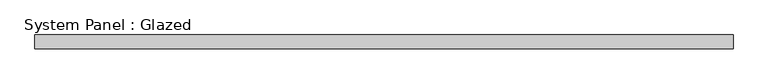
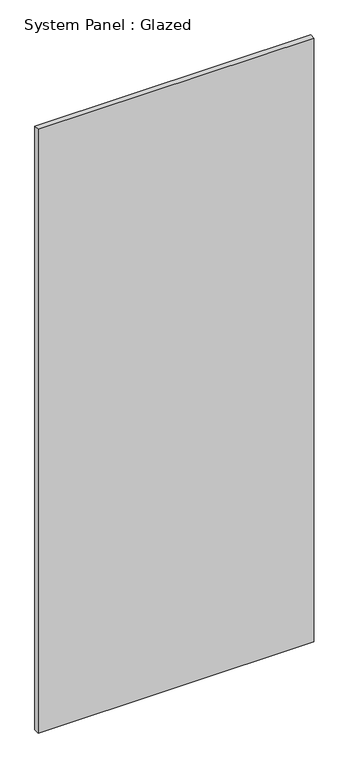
"""IFC4 building model written with IfcOpenShell, lengths in millimetres: plate geometry, System Panel : Glazed."""

from ifc_helpers import new_model, si_unit, origin, origin_with_axes, place, context, project, spatial, polyline, outline, extrude, source, transform, mapped, element, save


def system_panel_glazed_5ce5bdc7(model_context):
    return source(origin(), model_context, "Body", "SweptSolid", [
        extrude(outline(polyline([(638.1750001, -44.45), (-638.1750001, -44.45), (-638.1750001, -19.05), (638.1750001, -19.05), (638.1750001, -44.45)])), origin_with_axes(), (0.0, 0.0, 1.0), 2952.75),
    ])


if __name__ == "__main__":
    model = new_model("IFC4")
    model_context = context("Model", 3, world=origin())
    ifc_project = project(units=[si_unit("LENGTHUNIT", "METRE", prefix="MILLI")], contexts=[model_context])
    site = spatial("IfcSite", under=ifc_project)
    building = spatial("IfcBuilding", under=site)
    placement = place(None, origin())
    system_panel_glazed_shape = system_panel_glazed_5ce5bdc7(model_context)
    element("IfcPlate", 1, ObjectType="System Panel : Glazed", at=placement, inside=building, context=model_context, shape_type="MappedRepresentation", body=[
        mapped(system_panel_glazed_shape, transform((0.0, 0.0, 0.0), x_axis=(1.0, 0.0, 0.0), y_axis=(0.0, 1.0, 0.0), z_axis=(0.0, 0.0, 1.0))),
    ])
    save(model, "model.ifc")
